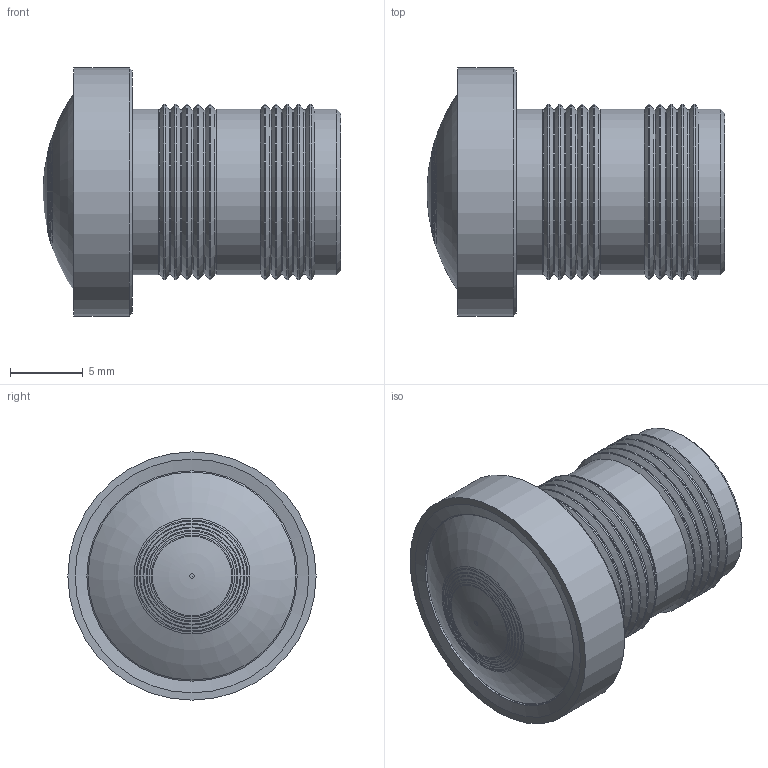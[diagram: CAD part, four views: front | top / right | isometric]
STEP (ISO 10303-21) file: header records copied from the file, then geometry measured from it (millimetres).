
FILE_DESCRIPTION (( 'STEP AP214' ), '1' );
FILE_NAME ('AB0211.STEP', '2025-08-20T11:19:27', ( '' ), ( '' ), 'SwSTEP 2.0', 'SolidWorks 2023', '' );
FILE_SCHEMA (( 'AUTOMOTIVE_DESIGN' ));
Length unit declared in the file: millimetre
Products named in the file (1): AB0211
Bounding box: 20.38 x 17.01 x 17.01 mm (x, y, z)
Volume: 2542.1 mm3; surface area: 1333.2 mm2
Topology: 1 solids, 1 shells, 68 faces, 132 edges, 68 vertices
Faces by surface type: cone 37, cylinder 25, plane 4, torus 2
Full cylindrical faces by diameter (mm): 11.26 x10, 11.344 x3, 12.004 x10, 14.405 x1, 17.005 x1
Entity records: 1377 total; most frequent: DIRECTION 272, CARTESIAN_POINT 203, AXIS2_PLACEMENT_3D 136, ORIENTED_EDGE 134, EDGE_LOOP 134, FACE_OUTER_BOUND 95, ADVANCED_FACE 68, VERTEX_POINT 67
